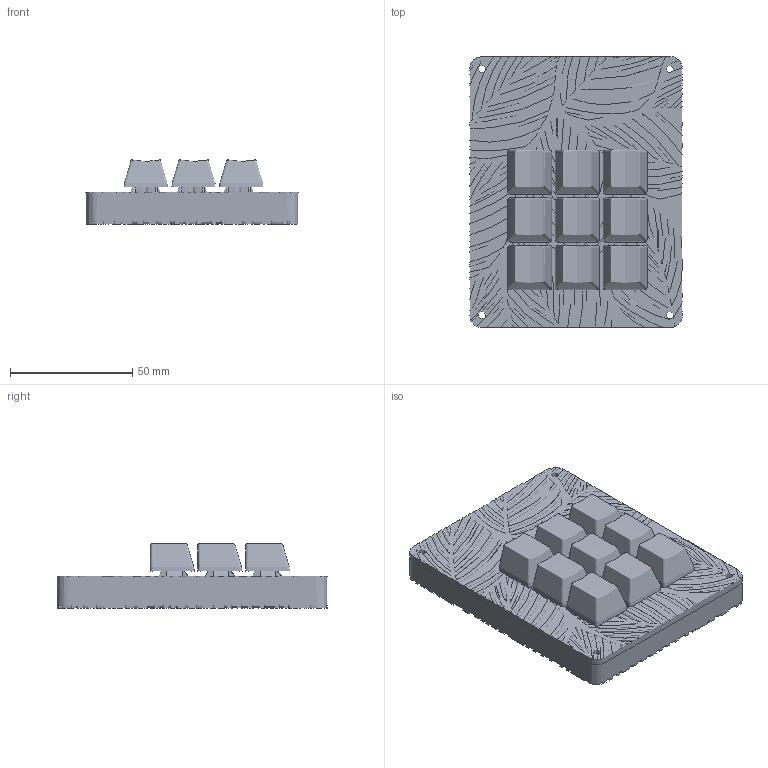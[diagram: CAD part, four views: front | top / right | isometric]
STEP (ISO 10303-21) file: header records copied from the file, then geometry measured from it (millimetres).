
FILE_DESCRIPTION(/* description */ ('STEP AP242 Edition 2','CAx-IF Rec.Pracs.---Representation and Presentation of Product Manufacturing Information (PMI)---4.0---2014-10-13','CAx-IF Rec.Pracs.---3D Tessellated Geometry---0.4---2014-09-14','2;1','CAx-IF Rec.Pracs.---User Defined Attributes---1.5---2016-08-15'),/* implementation_level */ '2;1');
FILE_NAME(/* name */ 'CAD',/* time_stamp */ '2026-09-13T14:35:40Z',/* author */ (''),/* organization */ (''),/* preprocessor_version */ 'ST-DEVELOPER v20',/* originating_system */ 'ONSHAPE BY PTC INC, 1.220',/* authorisation */ ' ');
FILE_SCHEMA (('AP242_MANAGED_MODEL_BASED_3D_ENGINEERING_MIM_LF { 1 0 10303 442 3 1 4 }'));
Products named in the file (31): Fillet13_(1)_(2); Fillet13; ________________:1__Body2_(3)_(2); Imported_09; Fillet13_(3); Body_13; ________________:1__Body2_(2)_(3); ________________:1__Body2_(3); Body2; Fillet13_(2); Fillet13_(2)_(3); Imported_03; Body_13_(2); Fillet13_(1)_(3); ________________:1__Body2_(2)_(2); Imported_11; Fillet13_(3)_(2); Fillet13_(2)_(2); Fillet13_(1); ________________:1__Body2_(1)_(3); Imported_01; Imported_15; ________________:1__Body2_(1)_(2); Imported_19; Imported_13; ________________:1__Body2; ________________:1__Body2_(2); ________________:1__Body2_(1); Imported_17; Imported_05; Imported_06
Bounding box: 86.67 x 110.53 x 26.23 mm (x, y, z)
Surface area: 105372 mm2
Topology: 1 solids, 31 shells, 32 faces, 0 edges, 0 vertices
Faces by surface type: other 32
Entity records: 1163 total; most frequent: STYLED_ITEM 63, PRESENTATION_STYLE_ASSIGNMENT 63, SURFACE_STYLE_USAGE 63, SURFACE_SIDE_STYLE 63, SURFACE_STYLE_FILL_AREA 63, FILL_AREA_STYLE 63, FILL_AREA_STYLE_COLOUR 63, DIRECTION 62
